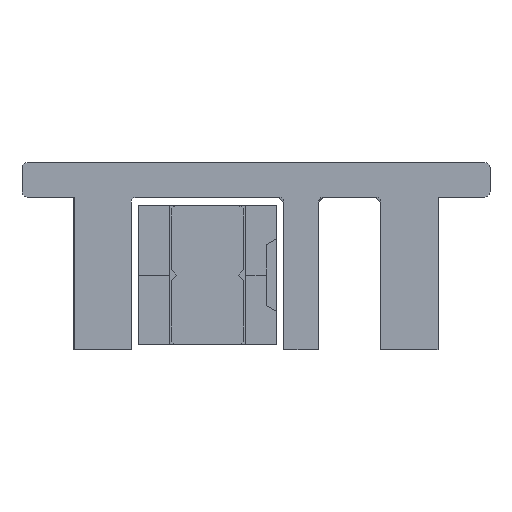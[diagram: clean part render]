
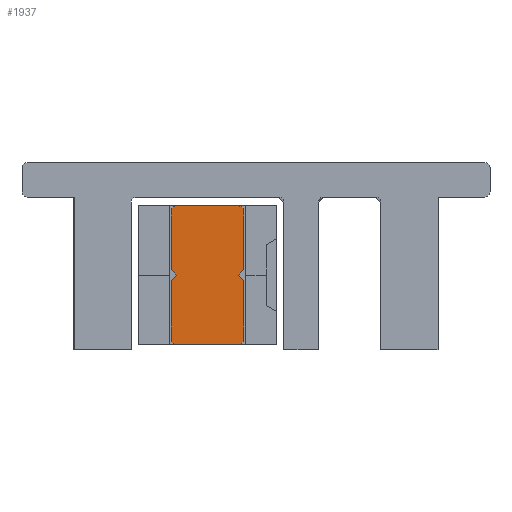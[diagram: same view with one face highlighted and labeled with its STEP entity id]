
A CAD part, front view. The second image highlights one B-rep face of the part: STEP entity #1937.
In plain terms, the highlighted planar face has unit normal (0, -1, 0) as drawn and (0, 0, 1) by its records, which use the part's own axes.
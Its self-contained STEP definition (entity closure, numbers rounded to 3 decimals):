
#83 = DIRECTION ( 'NONE',  ( 0., 0., -1. ) ) ;
#216 = CARTESIAN_POINT ( 'NONE',  ( 4.2, 4.3, 2795. ) ) ;
#305 = EDGE_CURVE ( 'NONE', #5487, #2972, #576, .T. ) ;
#482 = VECTOR ( 'NONE', #4036, 1000. ) ;
#500 = CARTESIAN_POINT ( 'NONE',  ( 4.2, 7.7, 2795. ) ) ;
#504 = ORIENTED_EDGE ( 'NONE', *, *, #1159, .F. ) ;
#511 = AXIS2_PLACEMENT_3D ( 'NONE', #1023, #1539, #1459 ) ;
#512 = DIRECTION ( 'NONE',  ( 0., 1., 0. ) ) ;
#576 = LINE ( 'NONE', #2355, #1498 ) ;
#586 = EDGE_CURVE ( 'NONE', #3681, #1534, #2672, .T. ) ;
#624 = VECTOR ( 'NONE', #3232, 1000. ) ;
#651 = ORIENTED_EDGE ( 'NONE', *, *, #3650, .F. ) ;
#668 = CARTESIAN_POINT ( 'NONE',  ( 3.9, 0., 2795. ) ) ;
#833 = CARTESIAN_POINT ( 'NONE',  ( 4.2, 3.7, 2795. ) ) ;
#849 = ORIENTED_EDGE ( 'NONE', *, *, #586, .F. ) ;
#852 = ORIENTED_EDGE ( 'NONE', *, *, #3240, .F. ) ;
#935 = ORIENTED_EDGE ( 'NONE', *, *, #1014, .F. ) ;
#949 = VECTOR ( 'NONE', #4449, 1000. ) ;
#1014 = EDGE_CURVE ( 'NONE', #5610, #4544, #2806, .T. ) ;
#1023 = CARTESIAN_POINT ( 'NONE',  ( 3.9, 0.3, 2795. ) ) ;
#1034 = AXIS2_PLACEMENT_3D ( 'NONE', #2721, #83, #1847 ) ;
#1153 = VECTOR ( 'NONE', #2694, 1000. ) ;
#1156 = VECTOR ( 'NONE', #5673, 1000. ) ;
#1159 = EDGE_CURVE ( 'NONE', #1652, #5610, #2727, .T. ) ;
#1344 = CARTESIAN_POINT ( 'NONE',  ( 0., 4.3, 2795. ) ) ;
#1399 = LINE ( 'NONE', #4891, #2957 ) ;
#1430 = CARTESIAN_POINT ( 'NONE',  ( 0.3, 4., 2795. ) ) ;
#1441 = DIRECTION ( 'NONE',  ( 0., 0., -1. ) ) ;
#1459 = DIRECTION ( 'NONE',  ( -1., 0., 0. ) ) ;
#1485 = CARTESIAN_POINT ( 'NONE',  ( 0.3, 0.3, 2795. ) ) ;
#1492 = ORIENTED_EDGE ( 'NONE', *, *, #3635, .F. ) ;
#1498 = VECTOR ( 'NONE', #4134, 1000. ) ;
#1534 = VERTEX_POINT ( 'NONE', #1344 ) ;
#1539 = DIRECTION ( 'NONE',  ( 0., 0., -1. ) ) ;
#1652 = VERTEX_POINT ( 'NONE', #2602 ) ;
#1778 = DIRECTION ( 'NONE',  ( 0., -1., 0. ) ) ;
#1847 = DIRECTION ( 'NONE',  ( -1., 0., 0. ) ) ;
#1874 = EDGE_CURVE ( 'NONE', #5695, #4440, #4338, .T. ) ;
#1895 = CARTESIAN_POINT ( 'NONE',  ( 0., 0.3, 2795. ) ) ;
#1937 = ADVANCED_FACE ( 'NONE', ( #4472 ), #4420, .F. ) ;
#1943 = EDGE_LOOP ( 'NONE', ( #849, #3698, #2356, #3637, #4276, #4541, #1492, #5460, #651, #852, #935, #504, #3449, #5488 ) ) ;
#2085 = DIRECTION ( 'NONE',  ( -1., 0., 0. ) ) ;
#2115 = CARTESIAN_POINT ( 'NONE',  ( 4.2, 3.7, 2795. ) ) ;
#2196 = VERTEX_POINT ( 'NONE', #1895 ) ;
#2231 = CARTESIAN_POINT ( 'NONE',  ( 0., 7.7, 2795. ) ) ;
#2266 = CARTESIAN_POINT ( 'NONE',  ( 4.2, 7.7, 2795. ) ) ;
#2296 = AXIS2_PLACEMENT_3D ( 'NONE', #1485, #5503, #4139 ) ;
#2309 = LINE ( 'NONE', #4192, #2562 ) ;
#2352 = CARTESIAN_POINT ( 'NONE',  ( 0.3, 0., 2795. ) ) ;
#2355 = CARTESIAN_POINT ( 'NONE',  ( 0.3, 0., 2795. ) ) ;
#2356 = ORIENTED_EDGE ( 'NONE', *, *, #5294, .F. ) ;
#2562 = VECTOR ( 'NONE', #2775, 1000. ) ;
#2574 = VECTOR ( 'NONE', #5440, 1000. ) ;
#2602 = CARTESIAN_POINT ( 'NONE',  ( 0.3, 8., 2795. ) ) ;
#2672 = LINE ( 'NONE', #5349, #949 ) ;
#2694 = DIRECTION ( 'NONE',  ( 0., 1., 0. ) ) ;
#2696 = CARTESIAN_POINT ( 'NONE',  ( 3.9, 8., 2795. ) ) ;
#2721 = CARTESIAN_POINT ( 'NONE',  ( 3.9, 7.7, 2795. ) ) ;
#2727 = LINE ( 'NONE', #3556, #482 ) ;
#2748 = CIRCLE ( 'NONE', #511, 0.3 ) ;
#2775 = DIRECTION ( 'NONE',  ( 0., 1., 0. ) ) ;
#2806 = CIRCLE ( 'NONE', #1034, 0.3 ) ;
#2808 = LINE ( 'NONE', #1430, #624 ) ;
#2871 = CARTESIAN_POINT ( 'NONE',  ( 4.2, 0.3, 2795. ) ) ;
#2908 = DIRECTION ( 'NONE',  ( 0., 0., -1. ) ) ;
#2957 = VECTOR ( 'NONE', #3102, 1000. ) ;
#2972 = VERTEX_POINT ( 'NONE', #2352 ) ;
#3102 = DIRECTION ( 'NONE',  ( -0.707, -0.707, 0. ) ) ;
#3116 = CIRCLE ( 'NONE', #5342, 0.3 ) ;
#3232 = DIRECTION ( 'NONE',  ( 0.707, 0.707, 0. ) ) ;
#3240 = EDGE_CURVE ( 'NONE', #4544, #4999, #4973, .T. ) ;
#3345 = EDGE_CURVE ( 'NONE', #5741, #3681, #2808, .T. ) ;
#3449 = ORIENTED_EDGE ( 'NONE', *, *, #4270, .F. ) ;
#3526 = LINE ( 'NONE', #2231, #1153 ) ;
#3556 = CARTESIAN_POINT ( 'NONE',  ( 0.3, 8., 2795. ) ) ;
#3577 = CARTESIAN_POINT ( 'NONE',  ( -8.6, -0.3, 2795. ) ) ;
#3635 = EDGE_CURVE ( 'NONE', #4440, #4612, #4489, .T. ) ;
#3637 = ORIENTED_EDGE ( 'NONE', *, *, #3759, .F. ) ;
#3650 = EDGE_CURVE ( 'NONE', #4999, #5695, #1399, .T. ) ;
#3681 = VERTEX_POINT ( 'NONE', #5336 ) ;
#3698 = ORIENTED_EDGE ( 'NONE', *, *, #3345, .F. ) ;
#3759 = EDGE_CURVE ( 'NONE', #2972, #2196, #4803, .T. ) ;
#3861 = AXIS2_PLACEMENT_3D ( 'NONE', #3577, #1441, #512 ) ;
#3874 = CARTESIAN_POINT ( 'NONE',  ( 0.3, 7.7, 2795. ) ) ;
#4036 = DIRECTION ( 'NONE',  ( 1., 0., 0. ) ) ;
#4134 = DIRECTION ( 'NONE',  ( -1., 0., 0. ) ) ;
#4139 = DIRECTION ( 'NONE',  ( -1., 0., 0. ) ) ;
#4192 = CARTESIAN_POINT ( 'NONE',  ( 0., 7.7, 2795. ) ) ;
#4250 = VECTOR ( 'NONE', #1778, 1000. ) ;
#4270 = EDGE_CURVE ( 'NONE', #4318, #1652, #3116, .T. ) ;
#4276 = ORIENTED_EDGE ( 'NONE', *, *, #305, .F. ) ;
#4318 = VERTEX_POINT ( 'NONE', #4682 ) ;
#4338 = LINE ( 'NONE', #2115, #1156 ) ;
#4420 = PLANE ( 'NONE',  #3861 ) ;
#4430 = EDGE_CURVE ( 'NONE', #1534, #4318, #3526, .T. ) ;
#4440 = VERTEX_POINT ( 'NONE', #833 ) ;
#4449 = DIRECTION ( 'NONE',  ( -0.707, 0.707, 0. ) ) ;
#4472 = FACE_OUTER_BOUND ( 'NONE', #1943, .T. ) ;
#4489 = LINE ( 'NONE', #500, #4250 ) ;
#4532 = CARTESIAN_POINT ( 'NONE',  ( 4.2, 7.7, 2795. ) ) ;
#4541 = ORIENTED_EDGE ( 'NONE', *, *, #4962, .F. ) ;
#4544 = VERTEX_POINT ( 'NONE', #4532 ) ;
#4589 = CARTESIAN_POINT ( 'NONE',  ( 0., 3.7, 2795. ) ) ;
#4612 = VERTEX_POINT ( 'NONE', #2871 ) ;
#4682 = CARTESIAN_POINT ( 'NONE',  ( 0., 7.7, 2795. ) ) ;
#4803 = CIRCLE ( 'NONE', #2296, 0.3 ) ;
#4891 = CARTESIAN_POINT ( 'NONE',  ( 3.9, 4., 2795. ) ) ;
#4962 = EDGE_CURVE ( 'NONE', #4612, #5487, #2748, .T. ) ;
#4973 = LINE ( 'NONE', #2266, #2574 ) ;
#4999 = VERTEX_POINT ( 'NONE', #216 ) ;
#5057 = CARTESIAN_POINT ( 'NONE',  ( 3.9, 4., 2795. ) ) ;
#5294 = EDGE_CURVE ( 'NONE', #2196, #5741, #2309, .T. ) ;
#5336 = CARTESIAN_POINT ( 'NONE',  ( 0.3, 4., 2795. ) ) ;
#5342 = AXIS2_PLACEMENT_3D ( 'NONE', #3874, #2908, #2085 ) ;
#5349 = CARTESIAN_POINT ( 'NONE',  ( 0., 4.3, 2795. ) ) ;
#5440 = DIRECTION ( 'NONE',  ( 0., -1., 0. ) ) ;
#5460 = ORIENTED_EDGE ( 'NONE', *, *, #1874, .F. ) ;
#5487 = VERTEX_POINT ( 'NONE', #668 ) ;
#5488 = ORIENTED_EDGE ( 'NONE', *, *, #4430, .F. ) ;
#5503 = DIRECTION ( 'NONE',  ( 0., 0., -1. ) ) ;
#5610 = VERTEX_POINT ( 'NONE', #2696 ) ;
#5673 = DIRECTION ( 'NONE',  ( 0.707, -0.707, 0. ) ) ;
#5695 = VERTEX_POINT ( 'NONE', #5057 ) ;
#5741 = VERTEX_POINT ( 'NONE', #4589 ) ;
